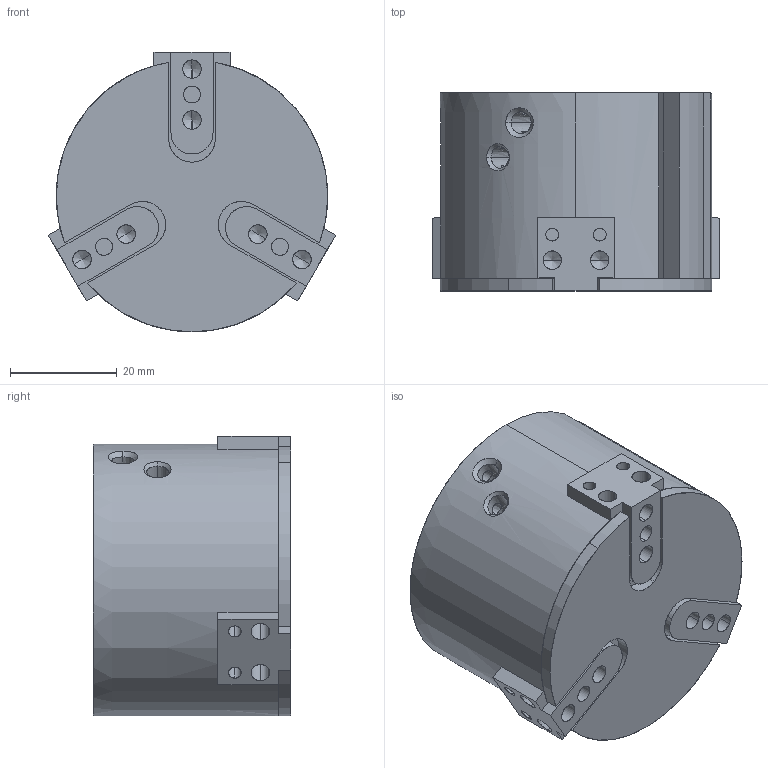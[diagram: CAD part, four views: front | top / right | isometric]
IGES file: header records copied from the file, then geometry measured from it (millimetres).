
Start section: SolidWorks IGES file using analytic representation for surfaces
Global section: file name: C:\Users\jmkuhnes\Pictures\My Transfers\AGP-23\AGP-23 CLOSED in MM.IGS; native system: SolidWorks 2013; preprocessor: SolidWorks 2013; author: jmkuhnes; date: 141105.080117; units: millimetre
Bounding box: 53.75 x 37.03 x 52.32 mm (x, y, z)
Surface area: 23521.4 mm2 (no closed solid volume)
Topology: 0 solids, 0 shells, 204 faces, 2939 edges, 2901 vertices
Faces by surface type: revolution 122, bspline 82
